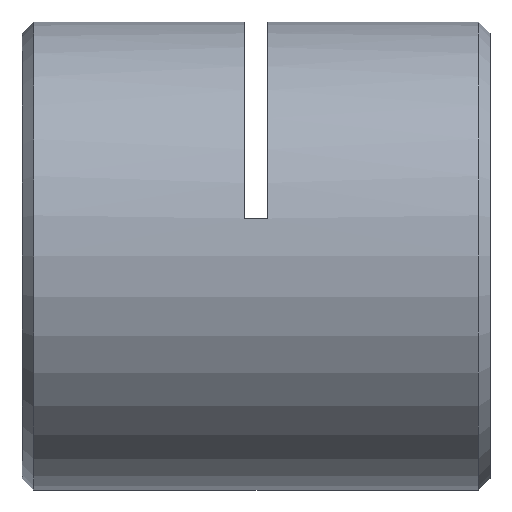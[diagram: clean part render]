
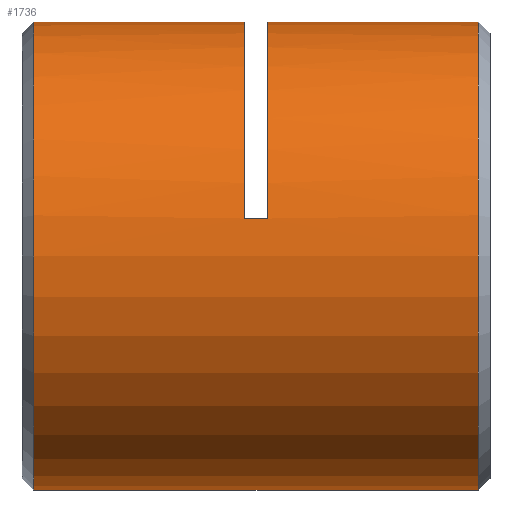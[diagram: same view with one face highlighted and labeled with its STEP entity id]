
A CAD part, left-side view. The second image highlights one B-rep face of the part: STEP entity #1736.
In plain terms, the highlighted cylindrical face has radius 8 mm (diameter 16 mm), a partial arc.
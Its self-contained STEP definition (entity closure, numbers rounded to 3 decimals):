
#155 = AXIS2_PLACEMENT_3D ( 'NONE', #2531, #2565, #3144 ) ;
#162 = EDGE_LOOP ( 'NONE', ( #2987, #2256, #3204, #3302, #3240, #3620, #2179, #3617 ) ) ;
#171 = VECTOR ( 'NONE', #2525, 1000. ) ;
#211 = CARTESIAN_POINT ( 'NONE',  ( 0., 15.85, 0. ) ) ;
#232 = VERTEX_POINT ( 'NONE', #3012 ) ;
#274 = CARTESIAN_POINT ( 'NONE',  ( 0., 0.65, 8. ) ) ;
#466 = EDGE_CURVE ( 'NONE', #2061, #3057, #3762, .T. ) ;
#546 = VERTEX_POINT ( 'NONE', #2523 ) ;
#556 = AXIS2_PLACEMENT_3D ( 'NONE', #3010, #3307, #964 ) ;
#572 = DIRECTION ( 'NONE',  ( 0., 1., 0. ) ) ;
#706 = CIRCLE ( 'NONE', #726, 8. ) ;
#726 = AXIS2_PLACEMENT_3D ( 'NONE', #211, #1012, #1302 ) ;
#739 = CARTESIAN_POINT ( 'NONE',  ( 0., 7.85, 8. ) ) ;
#959 = CARTESIAN_POINT ( 'NONE',  ( -7.897, 7.85, 1.28 ) ) ;
#964 = DIRECTION ( 'NONE',  ( 0., 0., 1. ) ) ;
#989 = LINE ( 'NONE', #3480, #1867 ) ;
#992 = LINE ( 'NONE', #3073, #2847 ) ;
#1012 = DIRECTION ( 'NONE',  ( 0., -1., 0. ) ) ;
#1111 = CIRCLE ( 'NONE', #155, 8. ) ;
#1302 = DIRECTION ( 'NONE',  ( 0., 0., -1. ) ) ;
#1323 = DIRECTION ( 'NONE',  ( 0., 1., 0. ) ) ;
#1346 = EDGE_CURVE ( 'NONE', #546, #1409, #706, .T. ) ;
#1366 = EDGE_CURVE ( 'NONE', #232, #546, #1983, .T. ) ;
#1409 = VERTEX_POINT ( 'NONE', #1630 ) ;
#1530 = AXIS2_PLACEMENT_3D ( 'NONE', #2203, #1323, #1903 ) ;
#1587 = CYLINDRICAL_SURFACE ( 'NONE', #556, 8. ) ;
#1596 = CARTESIAN_POINT ( 'NONE',  ( 0., 8.65, 0. ) ) ;
#1610 = DIRECTION ( 'NONE',  ( 0., 0., 1. ) ) ;
#1618 = VECTOR ( 'NONE', #572, 1000. ) ;
#1630 = CARTESIAN_POINT ( 'NONE',  ( 0., 15.85, -8. ) ) ;
#1736 = ADVANCED_FACE ( 'NONE', ( #2421 ), #1587, .T. ) ;
#1799 = EDGE_CURVE ( 'NONE', #2061, #2431, #992, .T. ) ;
#1867 = VECTOR ( 'NONE', #3796, 1000. ) ;
#1874 = EDGE_CURVE ( 'NONE', #3076, #2832, #1111, .T. ) ;
#1903 = DIRECTION ( 'NONE',  ( 0., 0., 1. ) ) ;
#1983 = LINE ( 'NONE', #3085, #171 ) ;
#2061 = VERTEX_POINT ( 'NONE', #959 ) ;
#2179 = ORIENTED_EDGE ( 'NONE', *, *, #1366, .T. ) ;
#2203 = CARTESIAN_POINT ( 'NONE',  ( 0., 7.85, 0. ) ) ;
#2256 = ORIENTED_EDGE ( 'NONE', *, *, #1874, .T. ) ;
#2319 = CARTESIAN_POINT ( 'NONE',  ( 0., 0.25, -8. ) ) ;
#2421 = FACE_OUTER_BOUND ( 'NONE', #162, .T. ) ;
#2431 = VERTEX_POINT ( 'NONE', #3597 ) ;
#2499 = CARTESIAN_POINT ( 'NONE',  ( 0., 0.65, -8. ) ) ;
#2523 = CARTESIAN_POINT ( 'NONE',  ( 0., 15.85, 8. ) ) ;
#2525 = DIRECTION ( 'NONE',  ( 0., 1., 0. ) ) ;
#2531 = CARTESIAN_POINT ( 'NONE',  ( 0., 0.65, 0. ) ) ;
#2533 = EDGE_CURVE ( 'NONE', #2431, #232, #3394, .T. ) ;
#2565 = DIRECTION ( 'NONE',  ( 0., 1., 0. ) ) ;
#2811 = EDGE_CURVE ( 'NONE', #2832, #3057, #989, .T. ) ;
#2832 = VERTEX_POINT ( 'NONE', #274 ) ;
#2847 = VECTOR ( 'NONE', #3336, 1000. ) ;
#2987 = ORIENTED_EDGE ( 'NONE', *, *, #3648, .F. ) ;
#3010 = CARTESIAN_POINT ( 'NONE',  ( 0., 0.25, 0. ) ) ;
#3012 = CARTESIAN_POINT ( 'NONE',  ( 0., 8.65, 8. ) ) ;
#3057 = VERTEX_POINT ( 'NONE', #739 ) ;
#3073 = CARTESIAN_POINT ( 'NONE',  ( -7.897, 8.25, 1.28 ) ) ;
#3076 = VERTEX_POINT ( 'NONE', #2499 ) ;
#3085 = CARTESIAN_POINT ( 'NONE',  ( 0., 0.25, 8. ) ) ;
#3144 = DIRECTION ( 'NONE',  ( 0., 0., 1. ) ) ;
#3204 = ORIENTED_EDGE ( 'NONE', *, *, #2811, .T. ) ;
#3240 = ORIENTED_EDGE ( 'NONE', *, *, #1799, .T. ) ;
#3302 = ORIENTED_EDGE ( 'NONE', *, *, #466, .F. ) ;
#3307 = DIRECTION ( 'NONE',  ( 0., 1., 0. ) ) ;
#3336 = DIRECTION ( 'NONE',  ( 0., 1., 0. ) ) ;
#3394 = CIRCLE ( 'NONE', #3729, 8. ) ;
#3418 = LINE ( 'NONE', #2319, #1618 ) ;
#3480 = CARTESIAN_POINT ( 'NONE',  ( 0., 0.25, 8. ) ) ;
#3597 = CARTESIAN_POINT ( 'NONE',  ( -7.897, 8.65, 1.28 ) ) ;
#3617 = ORIENTED_EDGE ( 'NONE', *, *, #1346, .T. ) ;
#3620 = ORIENTED_EDGE ( 'NONE', *, *, #2533, .T. ) ;
#3632 = DIRECTION ( 'NONE',  ( 0., 1., 0. ) ) ;
#3648 = EDGE_CURVE ( 'NONE', #3076, #1409, #3418, .T. ) ;
#3729 = AXIS2_PLACEMENT_3D ( 'NONE', #1596, #3632, #1610 ) ;
#3762 = CIRCLE ( 'NONE', #1530, 8. ) ;
#3796 = DIRECTION ( 'NONE',  ( 0., 1., 0. ) ) ;
